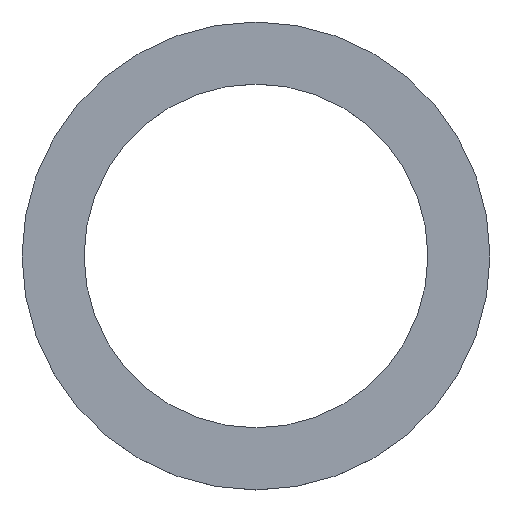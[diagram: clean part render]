
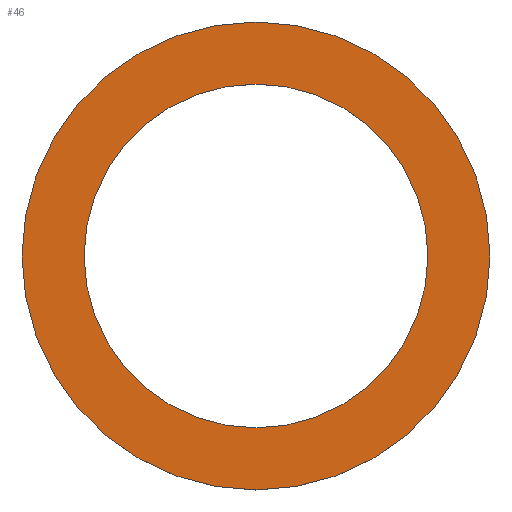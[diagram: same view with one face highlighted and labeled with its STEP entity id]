
A CAD part, top view. The second image highlights one B-rep face of the part: STEP entity #46.
In plain terms, the highlighted planar face has unit normal (0, 0, 1).
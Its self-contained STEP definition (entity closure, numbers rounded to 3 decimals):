
#42=PLANE('',#93);
#46=ADVANCED_FACE('',(#54,#55),#42,.T.);
#54=FACE_BOUND('',#62,.T.);
#55=FACE_BOUND('',#63,.T.);
#62=EDGE_LOOP('',(#70));
#63=EDGE_LOOP('',(#71));
#70=ORIENTED_EDGE('',*,*,#78,.T.);
#71=ORIENTED_EDGE('',*,*,#80,.F.);
#74=VERTEX_POINT('',#115);
#76=VERTEX_POINT('',#120);
#78=EDGE_CURVE('',#74,#74,#82,.T.);
#80=EDGE_CURVE('',#76,#76,#84,.T.);
#82=CIRCLE('',#87,49.);
#84=CIRCLE('',#90,36.);
#87=AXIS2_PLACEMENT_3D('',#114,#97,#98);
#90=AXIS2_PLACEMENT_3D('',#119,#103,#104);
#93=AXIS2_PLACEMENT_3D('',#124,#109,#110);
#97=DIRECTION('',(0.,0.,1.));
#98=DIRECTION('',(1.,0.,0.));
#103=DIRECTION('',(0.,0.,1.));
#104=DIRECTION('',(1.,0.,0.));
#109=DIRECTION('',(0.,0.,1.));
#110=DIRECTION('',(1.,0.,0.));
#114=CARTESIAN_POINT('',(0.,0.,3.));
#115=CARTESIAN_POINT('',(49.,0.,3.));
#119=CARTESIAN_POINT('',(0.,0.,3.));
#120=CARTESIAN_POINT('',(36.,0.,3.));
#124=CARTESIAN_POINT('',(0.,0.,3.));
